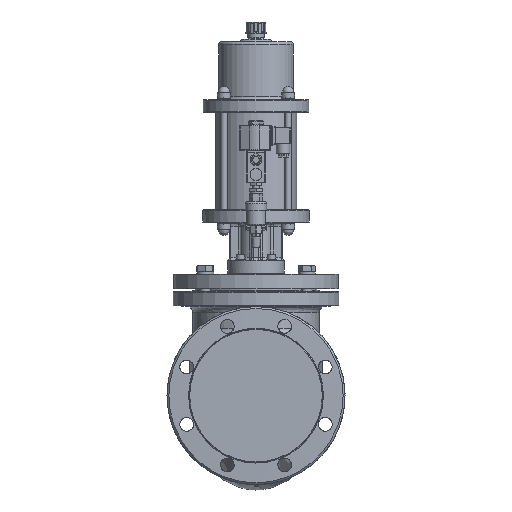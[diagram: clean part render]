
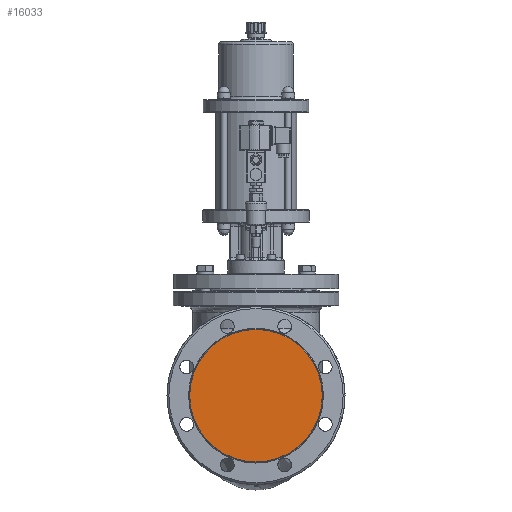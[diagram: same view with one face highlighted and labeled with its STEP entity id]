
A CAD part, left-side view. The second image highlights one B-rep face of the part: STEP entity #16033.
In plain terms, the highlighted planar face has unit normal (-1, 0, 0).
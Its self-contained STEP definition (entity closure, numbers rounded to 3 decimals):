
#16017=CARTESIAN_POINT('',(-240.,0.,0.));
#16018=DIRECTION('',(-1.0,0.0,0.0));
#16019=DIRECTION('',(0.0,0.0,-1.0));
#16020=AXIS2_PLACEMENT_3D('',#16017,#16018,#16019);
#16021=PLANE('',#16020);
#16022=CARTESIAN_POINT('',(-240.,0.,106.1));
#16023=VERTEX_POINT('',#16022);
#16024=CARTESIAN_POINT('',(-240.,0.,0.));
#16025=DIRECTION('',(1.0,0.0,0.0));
#16026=DIRECTION('',(0.0,0.0,1.0));
#16027=AXIS2_PLACEMENT_3D('',#16024,#16025,#16026);
#16028=CIRCLE('',#16027,106.1);
#16029=EDGE_CURVE('',#16023,#16023,#16028,.T.);
#16030=ORIENTED_EDGE('',*,*,#16029,.F.);
#16031=EDGE_LOOP('',(#16030));
#16032=FACE_OUTER_BOUND('',#16031,.T.);
#16033=ADVANCED_FACE('',(#16032),#16021,.T.);
